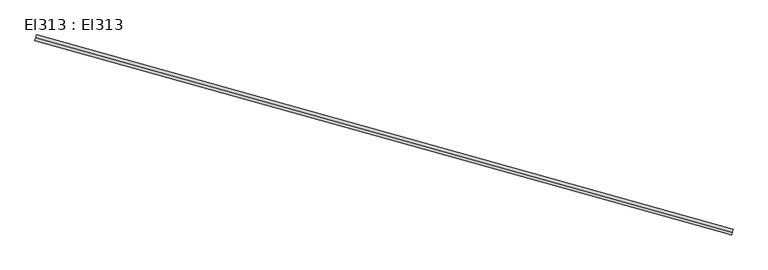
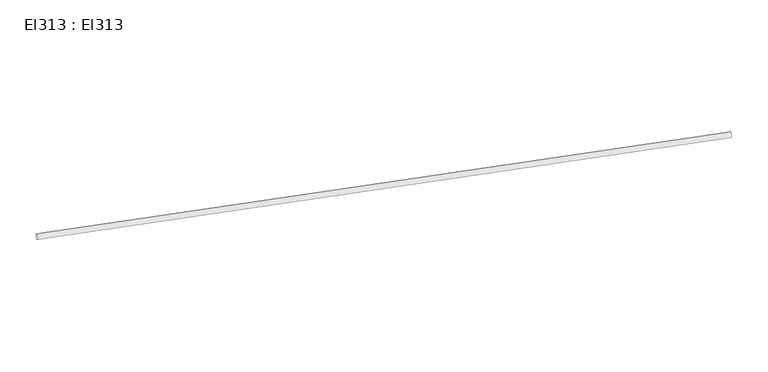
"""IFC4 building model written with IfcOpenShell, lengths in millimetres: cable carrier segment geometry, El313 : El313."""

from ifc_helpers import new_model, si_unit, point, frame, frame_2d, origin, place, context, project, spatial, circle_curve, trimmed, segment, composite_curve, outline, extrude, source, transform, mapped, element, save


def el313_el313_d04d6d57(model_context):
    return source(origin(), model_context, "Body", "SweptSolid", [
        extrude(outline(composite_curve([segment(trimmed(circle_curve(frame_2d((0.0, -9.5)), 9.5), [point((0.0, -19.0))], [point((0.0, 0.0))], False, "CARTESIAN"), True, "CONTINUOUS"), segment(trimmed(circle_curve(frame_2d((0.0, -9.5)), 9.5), [point((0.0, 0.0))], [point((0.0, -19.0))], False, "CARTESIAN"), True, "CONTINUOUS")], self_intersect=False)), frame((29890.9610499, 11754.5755678, 2959.5), z_axis=(-0.9630205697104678, 0.26942787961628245, 0.0), x_axis=(-0.26942787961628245, -0.9630205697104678, 0.0)), (0.0, 0.0, 1.0), 2319.91),
    ])


if __name__ == "__main__":
    model = new_model("IFC4")
    model_context = context("Model", 3, world=origin())
    ifc_project = project(units=[si_unit("LENGTHUNIT", "METRE", prefix="MILLI")], contexts=[model_context])
    site = spatial("IfcSite", under=ifc_project)
    building = spatial("IfcBuilding", under=site)
    placement = place(None, origin())
    el313_el313_shape = el313_el313_d04d6d57(model_context)
    element("IfcCableCarrierSegment", 1, ObjectType="El313 : El313", at=placement, inside=building, context=model_context, shape_type="MappedRepresentation", body=[
        mapped(el313_el313_shape, transform((0.0, 0.0, 0.0), x_axis=(1.0, 0.0, 0.0), y_axis=(0.0, 1.0, 0.0), z_axis=(0.0, 0.0, 1.0))),
    ])
    save(model, "model.ifc")
